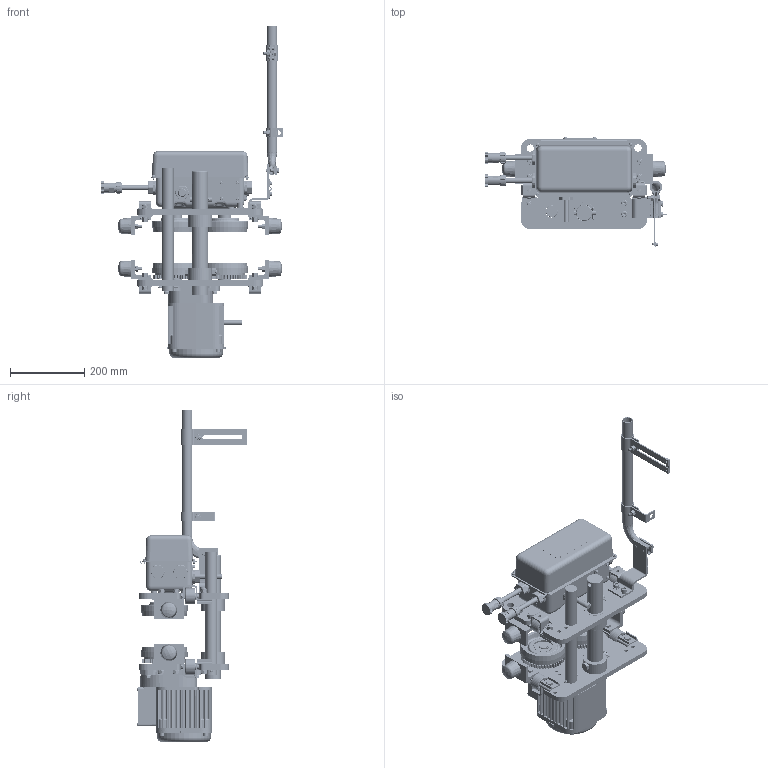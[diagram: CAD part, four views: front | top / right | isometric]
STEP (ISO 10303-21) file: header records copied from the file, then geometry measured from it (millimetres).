
FILE_DESCRIPTION (( 'STEP AP214' ), '1' );
FILE_NAME ('MR030SD.STEP', '2026-08-10T15:12:02', ( '' ), ( '' ), 'SwSTEP 2.0', 'SolidWorks 2026', '' );
FILE_SCHEMA (( 'AUTOMOTIVE_DESIGN' ));
Length unit declared in the file: inch
Products named in the file (91): ES558003; M6F554010; M6SE030S9102; MS162030_MS162030; MR2DI1768_DEFAULT; Socket Head Cap Screw_AM_B18.3.1M - 10 x 1.5 x 20 Hex SHCS -- 20NHX; MR1FS9203; MR1DS1493; MR1DS9501; 9012711_9012711; MR1DS9496; MR2DI2811; MR1ES92151; MR1DS1491; 60704; M7SE020S91422; MR030SD; MR1ES9218; MR1DS93112; MS517010; 16-6 (MR2); MR1FS9205; 9093352_9093352; MR1FS5201; 90094165_90094165; J1PS31-050025; MS527010; 9093427_9093427; MR1DS9481; MR2SHM10S9A8; 90912134; J1SR000-00062_JIS B 2804 Hole use 62; MR1DS9493; ECP5924AC1; MS1102030; ECP6916AA; MR1FS9101_MR1FS9101; 9047125_B27.7M - 3AM1-23; MR1DS9492; M6SE030S9101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
Assembly tree (226 placements, depth 5):
  MR030SD
    MR1FS5201
      MR1FS9201
      MR1FS9203  x2
      MR1FS9204
    MR1FS5202
      MR1FS9202
      MR1FS9203  x2
      MR1FS9205
    MS1101030  x2
      M6SE030S9101
      J1SR000-00062_JIS B 2804 Hole use 62
      J1GR020-0630
    MS1102030  x2
      M6SE030S9102
      J1SR000-00062_JIS B 2804 Hole use 62
      J1GR020-0630
    MR1ES9634  x4
    MS006020  x4
    MR1ES12112  x2
      M7SE020S91422
      J1PS31-050025
      MR1ES22111
      MR2DS92171
      MR1ES92151
      MR1ES9218
    MR1ES12112_Reversed  x2
      M7SE020S91422
      J1PS31-050025
      MR1ES22111
      MR2DS92171
      MR1ES92151
      MR1ES9218
    MR1FS9631  x4
    9012711_9012711  x8
    9093424_9093424  x4
    9093351_9093351  x4
    9012712_9012712  x14
    9093427_9093427  x12
    9093352_9093352  x8
    9047125_B27.7M - 3AM1-23  x4
    70131XX_7013102
      MR1DS9411
      MR1DS9401_1 - 8 TON & 10 L TON
      MR1DS9421
      MS554010  x12
      MR2DI2811
        ECP5924AH
        MS527010
        MR2DI1811
        ES558003  x4
      MS517010  x4
      MS551010  x4
      MR2DI1768_DEFAULT  x2
        60704
          ECP5924AA1
          ECP5924AD1
          ECP5924AC1
          KITO-WASHER
          ECP5924AB1
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Bounding box: 489.15 x 295.18 x 893.31 mm (x, y, z)
Volume: 7831532.6 mm3; surface area: 2234538.4 mm2
Topology: 259 solids, 275 shells, 10006 faces, 26595 edges, 17374 vertices
Faces by surface type: plane 4634, cylinder 2797, cone 1383, bspline 688, torus 400, sphere 104
Entity records: 188743 total; most frequent: CARTESIAN_POINT 77076, ORIENTED_EDGE 22950, DIRECTION 21246, EDGE_CURVE 11477, AXIS2_PLACEMENT_3D 7784, VERTEX_POINT 7713, LINE 5678, VECTOR 5678
